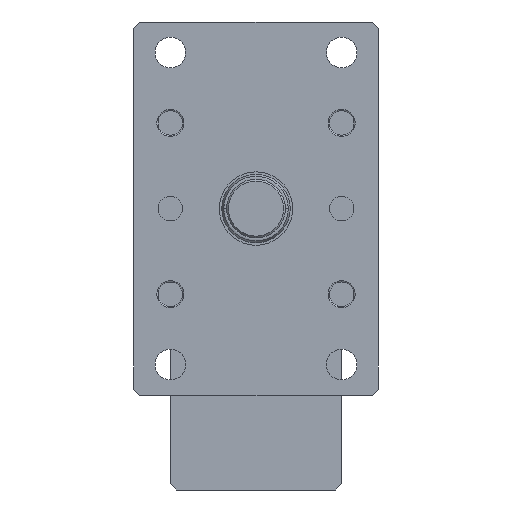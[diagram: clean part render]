
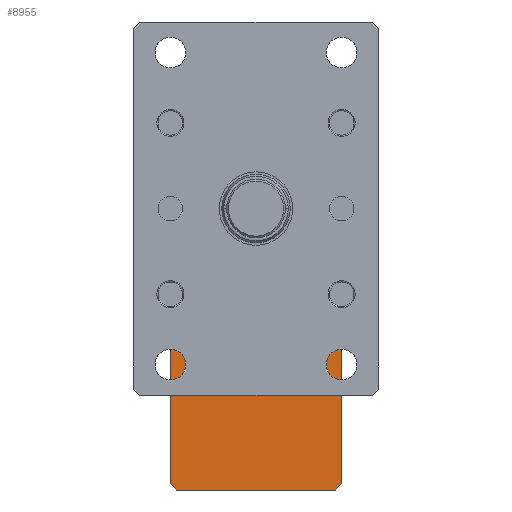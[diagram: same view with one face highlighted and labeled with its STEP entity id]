
A CAD part, left-side view. The second image highlights one B-rep face of the part: STEP entity #8955.
In plain terms, the highlighted planar face has unit normal (-1, 0, 0).
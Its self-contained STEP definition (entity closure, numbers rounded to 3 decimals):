
#38 = CARTESIAN_POINT ( 'NONE',  ( 427.5, 65., -90. ) ) ;
#97 = VERTEX_POINT ( 'NONE', #1372 ) ;
#352 = CARTESIAN_POINT ( 'NONE',  ( 427.5, 70., -230. ) ) ;
#448 = LINE ( 'NONE', #2494, #3917 ) ;
#577 = CARTESIAN_POINT ( 'NONE',  ( 427.5, -70., -230. ) ) ;
#687 = EDGE_LOOP ( 'NONE', ( #8794, #6422, #4879, #1242, #992, #3505, #7510, #7661 ) ) ;
#934 = DIRECTION ( 'NONE',  ( 0., 1., 0. ) ) ;
#992 = ORIENTED_EDGE ( 'NONE', *, *, #1599, .F. ) ;
#1048 = DIRECTION ( 'NONE',  ( 0., 0., 1. ) ) ;
#1174 = DIRECTION ( 'NONE',  ( 1., 0., 0. ) ) ;
#1190 = CARTESIAN_POINT ( 'NONE',  ( 427.5, -70., -225. ) ) ;
#1221 = EDGE_CURVE ( 'NONE', #97, #6281, #4823, .T. ) ;
#1242 = ORIENTED_EDGE ( 'NONE', *, *, #5794, .T. ) ;
#1372 = CARTESIAN_POINT ( 'NONE',  ( 427.5, -65., -230. ) ) ;
#1480 = VERTEX_POINT ( 'NONE', #7848 ) ;
#1599 = EDGE_CURVE ( 'NONE', #1480, #6071, #5459, .T. ) ;
#1742 = VERTEX_POINT ( 'NONE', #1190 ) ;
#1855 = CARTESIAN_POINT ( 'NONE',  ( 427.5, -65., -90. ) ) ;
#2332 = VECTOR ( 'NONE', #7435, 1000. ) ;
#2398 = VERTEX_POINT ( 'NONE', #38 ) ;
#2494 = CARTESIAN_POINT ( 'NONE',  ( 427.5, -65., -230. ) ) ;
#2579 = EDGE_CURVE ( 'NONE', #5426, #2398, #8297, .T. ) ;
#2700 = LINE ( 'NONE', #2970, #5916 ) ;
#2728 = AXIS2_PLACEMENT_3D ( 'NONE', #4637, #1174, #6028 ) ;
#2858 = EDGE_CURVE ( 'NONE', #1742, #4950, #7975, .T. ) ;
#2970 = CARTESIAN_POINT ( 'NONE',  ( 427.5, 70., -95. ) ) ;
#3505 = ORIENTED_EDGE ( 'NONE', *, *, #4874, .T. ) ;
#3917 = VECTOR ( 'NONE', #6613, 1000. ) ;
#3989 = DIRECTION ( 'NONE',  ( 0., -0.707, -0.707 ) ) ;
#4080 = CARTESIAN_POINT ( 'NONE',  ( 427.5, -70., -95. ) ) ;
#4391 = EDGE_CURVE ( 'NONE', #97, #1742, #448, .T. ) ;
#4637 = CARTESIAN_POINT ( 'NONE',  ( 427.5, 70., -230. ) ) ;
#4738 = DIRECTION ( 'NONE',  ( 0., 0., 1. ) ) ;
#4780 = CARTESIAN_POINT ( 'NONE',  ( 427.5, 70., -230. ) ) ;
#4823 = LINE ( 'NONE', #4780, #6429 ) ;
#4874 = EDGE_CURVE ( 'NONE', #1480, #6281, #8768, .T. ) ;
#4879 = ORIENTED_EDGE ( 'NONE', *, *, #2579, .T. ) ;
#4950 = VERTEX_POINT ( 'NONE', #4080 ) ;
#5083 = CARTESIAN_POINT ( 'NONE',  ( 427.5, 70., -90. ) ) ;
#5089 = VECTOR ( 'NONE', #3989, 1000. ) ;
#5208 = CARTESIAN_POINT ( 'NONE',  ( 427.5, 65., -230. ) ) ;
#5324 = PLANE ( 'NONE',  #2728 ) ;
#5426 = VERTEX_POINT ( 'NONE', #1855 ) ;
#5459 = LINE ( 'NONE', #352, #8910 ) ;
#5794 = EDGE_CURVE ( 'NONE', #2398, #6071, #2700, .T. ) ;
#5916 = VECTOR ( 'NONE', #8502, 1000. ) ;
#6026 = CARTESIAN_POINT ( 'NONE',  ( 427.5, -70., -95. ) ) ;
#6028 = DIRECTION ( 'NONE',  ( 0., 1., 0. ) ) ;
#6071 = VERTEX_POINT ( 'NONE', #7609 ) ;
#6281 = VERTEX_POINT ( 'NONE', #5208 ) ;
#6422 = ORIENTED_EDGE ( 'NONE', *, *, #6969, .T. ) ;
#6429 = VECTOR ( 'NONE', #6891, 1000. ) ;
#6613 = DIRECTION ( 'NONE',  ( 0., -0.707, 0.707 ) ) ;
#6675 = VECTOR ( 'NONE', #934, 1000. ) ;
#6891 = DIRECTION ( 'NONE',  ( 0., 1., 0. ) ) ;
#6969 = EDGE_CURVE ( 'NONE', #4950, #5426, #7866, .T. ) ;
#7435 = DIRECTION ( 'NONE',  ( 0., 0.707, 0.707 ) ) ;
#7510 = ORIENTED_EDGE ( 'NONE', *, *, #1221, .F. ) ;
#7609 = CARTESIAN_POINT ( 'NONE',  ( 427.5, 70., -95. ) ) ;
#7661 = ORIENTED_EDGE ( 'NONE', *, *, #4391, .T. ) ;
#7762 = VECTOR ( 'NONE', #4738, 1000. ) ;
#7848 = CARTESIAN_POINT ( 'NONE',  ( 427.5, 70., -225. ) ) ;
#7866 = LINE ( 'NONE', #6026, #2332 ) ;
#7975 = LINE ( 'NONE', #577, #7762 ) ;
#8297 = LINE ( 'NONE', #5083, #6675 ) ;
#8420 = FACE_OUTER_BOUND ( 'NONE', #687, .T. ) ;
#8502 = DIRECTION ( 'NONE',  ( 0., 0.707, -0.707 ) ) ;
#8768 = LINE ( 'NONE', #8813, #5089 ) ;
#8794 = ORIENTED_EDGE ( 'NONE', *, *, #2858, .T. ) ;
#8813 = CARTESIAN_POINT ( 'NONE',  ( 427.5, 65., -230. ) ) ;
#8910 = VECTOR ( 'NONE', #1048, 1000. ) ;
#8955 = ADVANCED_FACE ( 'NONE', ( #8420 ), #5324, .F. ) ;
